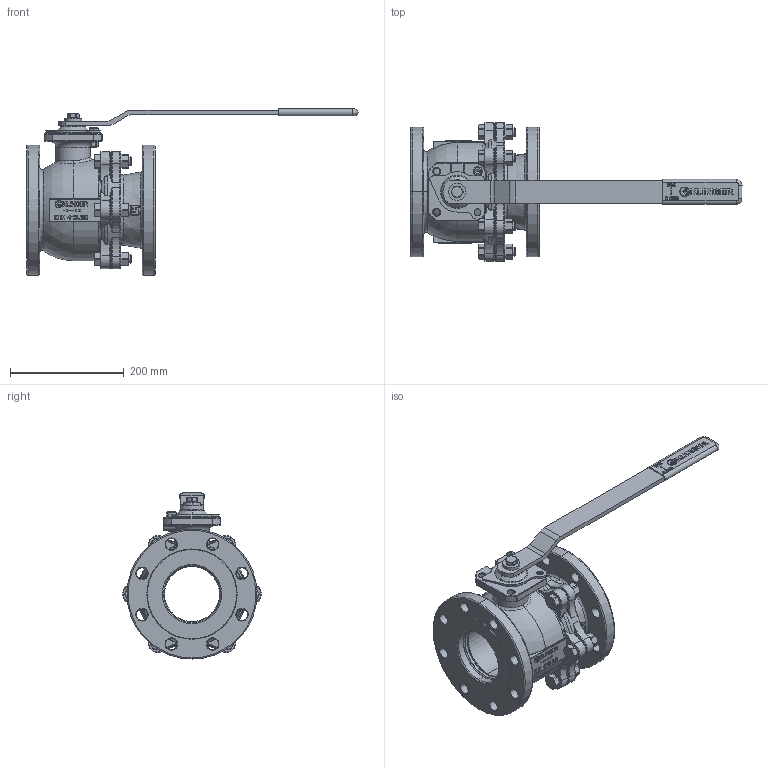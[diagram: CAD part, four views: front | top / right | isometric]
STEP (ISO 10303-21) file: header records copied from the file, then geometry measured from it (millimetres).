
FILE_DESCRIPTION((''),'2;1');
FILE_NAME('KHEFS-4-VFS-4-C150PKK','2015-08-10T',('mahrhauserh'),('RAND'),'PRO/ENGINEER BY PARAMETRIC TECHNOLOGY CORPORATION, 2013410','PRO/ENGINEER BY PARAMETRIC TECHNOLOGY CORPORATION, 2013410','');
FILE_SCHEMA(('CONFIG_CONTROL_DESIGN'));
Products named in the file (1): KHEFS-4-VFS-4-C150PKK
Bounding box: 585 x 244 x 292.75 mm (x, y, z)
Volume: 4369861.5 mm3; surface area: 730129.3 mm2
Topology: 1 solids, 1 shells, 3033 faces, 7962 edges, 5068 vertices
Faces by surface type: plane 1824, cylinder 469, torus 339, cone 242, bspline 145, sphere 14
Entity records: 115641 total; most frequent: CARTESIAN_POINT 40884, ORIENTED_EDGE 15920, DIRECTION 15144, EDGE_CURVE 7960, VECTOR 5268, LINE 5268, VERTEX_POINT 5068, AXIS2_PLACEMENT_3D 4938
